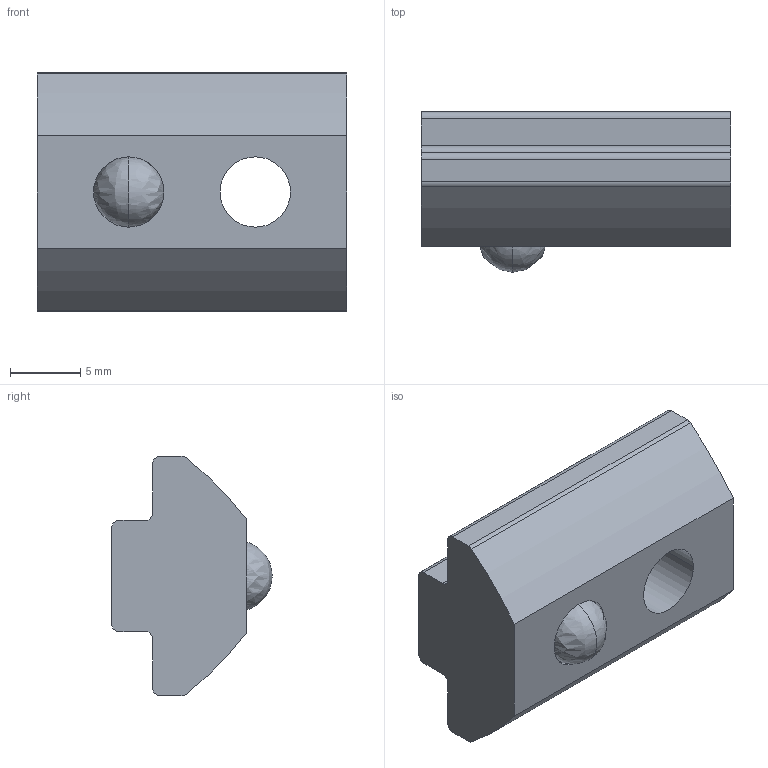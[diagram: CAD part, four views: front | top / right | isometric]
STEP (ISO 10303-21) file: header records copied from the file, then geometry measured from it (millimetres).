
FILE_DESCRIPTION (( 'STEP AP203' ), '1' );
FILE_NAME ('10356_NUTM6STSS.STEP', '2018-05-24T11:31:22', ( '' ), ( '' ), 'SwSTEP 2.0', 'SolidWorks 2017', '' );
FILE_SCHEMA (( 'CONFIG_CONTROL_DESIGN' ));
Length unit declared in the file: millimetre
Products named in the file (1): 10356_NUTM6STSS
Bounding box: 22 x 11.4 x 17 mm (x, y, z)
Volume: 2364.9 mm3; surface area: 1609.8 mm2
Topology: 3 solids, 3 shells, 39 faces, 102 edges, 64 vertices
Faces by surface type: cylinder 14, plane 13, bspline 10, cone 2
Entity records: 2059 total; most frequent: CARTESIAN_POINT 1058, ORIENTED_EDGE 196, DIRECTION 192, EDGE_CURVE 98, AXIS2_PLACEMENT_3D 76, VERTEX_POINT 64, CIRCLE 46, EDGE_LOOP 44
